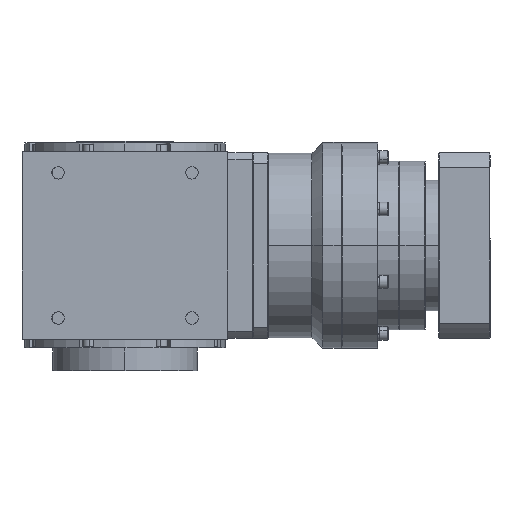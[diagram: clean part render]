
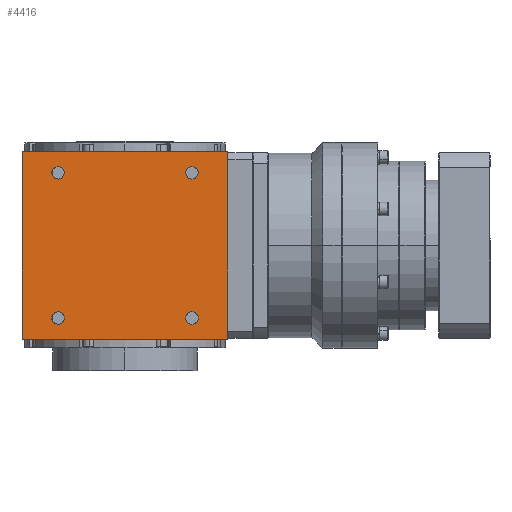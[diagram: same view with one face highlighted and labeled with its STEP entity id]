
A CAD part, left-side view. The second image highlights one B-rep face of the part: STEP entity #4416.
In plain terms, the highlighted planar face has unit normal (-1, 0, 0).
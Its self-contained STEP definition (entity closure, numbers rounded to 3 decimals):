
#7 = EDGE_LOOP ( 'NONE', ( #27596, #23486 ) ) ;
#136 = EDGE_LOOP ( 'NONE', ( #16615, #42117 ) ) ;
#536 = CARTESIAN_POINT ( 'NONE',  ( -100., -65.034, -70.5 ) ) ;
#931 = EDGE_LOOP ( 'NONE', ( #40549, #4655 ) ) ;
#1659 = FACE_BOUND ( 'NONE', #136, .T. ) ;
#1903 = DIRECTION ( 'NONE',  ( 0., 0., 1. ) ) ;
#2117 = DIRECTION ( 'NONE',  ( 1., 0., 0. ) ) ;
#3049 = CIRCLE ( 'NONE', #25621, 6. ) ;
#3497 = CIRCLE ( 'NONE', #17810, 6. ) ;
#4001 = DIRECTION ( 'NONE',  ( 0., -1., 0. ) ) ;
#4050 = DIRECTION ( 'NONE',  ( 1., 0., 0. ) ) ;
#4365 = LINE ( 'NONE', #11624, #29700 ) ;
#4416 = ADVANCED_FACE ( 'NONE', ( #1659, #21287, #36295, #23493, #37499 ), #33286, .T. ) ;
#4597 = EDGE_CURVE ( 'NONE', #28539, #4607, #19956, .T. ) ;
#4607 = VERTEX_POINT ( 'NONE', #15932 ) ;
#4655 = ORIENTED_EDGE ( 'NONE', *, *, #28865, .T. ) ;
#4694 = CARTESIAN_POINT ( 'NONE',  ( -100., -59.034, -70.5 ) ) ;
#4910 = ORIENTED_EDGE ( 'NONE', *, *, #34189, .F. ) ;
#5467 = CARTESIAN_POINT ( 'NONE',  ( -100., 64.966, 70.5 ) ) ;
#6022 = CARTESIAN_POINT ( 'NONE',  ( -100., 100., -91. ) ) ;
#6544 = CIRCLE ( 'NONE', #7885, 6. ) ;
#7319 = EDGE_CURVE ( 'NONE', #4607, #28539, #3049, .T. ) ;
#7885 = AXIS2_PLACEMENT_3D ( 'NONE', #18266, #34253, #27650 ) ;
#7987 = EDGE_LOOP ( 'NONE', ( #26884, #23819 ) ) ;
#8488 = DIRECTION ( 'NONE',  ( -1., 0., 0. ) ) ;
#8501 = DIRECTION ( 'NONE',  ( 0., -1., 0. ) ) ;
#8523 = CARTESIAN_POINT ( 'NONE',  ( -100., -100., -91. ) ) ;
#9100 = VECTOR ( 'NONE', #1903, 1000. ) ;
#9540 = CARTESIAN_POINT ( 'NONE',  ( -100., -71.034, -70.5 ) ) ;
#9983 = CARTESIAN_POINT ( 'NONE',  ( -100., -65.034, -70.5 ) ) ;
#10144 = EDGE_LOOP ( 'NONE', ( #19402, #31632, #4910, #15541 ) ) ;
#10661 = CARTESIAN_POINT ( 'NONE',  ( -100., 100., 91. ) ) ;
#11222 = VERTEX_POINT ( 'NONE', #11492 ) ;
#11320 = CIRCLE ( 'NONE', #15401, 6. ) ;
#11492 = CARTESIAN_POINT ( 'NONE',  ( -100., -100., 91. ) ) ;
#11553 = VERTEX_POINT ( 'NONE', #24194 ) ;
#11624 = CARTESIAN_POINT ( 'NONE',  ( -100., 100., -91. ) ) ;
#11820 = VECTOR ( 'NONE', #22059, 1000. ) ;
#12152 = VERTEX_POINT ( 'NONE', #10661 ) ;
#14599 = EDGE_CURVE ( 'NONE', #26183, #20567, #3497, .T. ) ;
#14657 = VECTOR ( 'NONE', #19635, 1000. ) ;
#14680 = DIRECTION ( 'NONE',  ( 1., 0., 0. ) ) ;
#15337 = LINE ( 'NONE', #8523, #9100 ) ;
#15401 = AXIS2_PLACEMENT_3D ( 'NONE', #9983, #23006, #36009 ) ;
#15541 = ORIENTED_EDGE ( 'NONE', *, *, #37010, .T. ) ;
#15932 = CARTESIAN_POINT ( 'NONE',  ( -100., 58.966, 70.5 ) ) ;
#16615 = ORIENTED_EDGE ( 'NONE', *, *, #14599, .T. ) ;
#16628 = LINE ( 'NONE', #16839, #14657 ) ;
#16839 = CARTESIAN_POINT ( 'NONE',  ( -100., 0., 91. ) ) ;
#17138 = EDGE_CURVE ( 'NONE', #12152, #11222, #16628, .T. ) ;
#17810 = AXIS2_PLACEMENT_3D ( 'NONE', #20865, #14680, #4001 ) ;
#17858 = EDGE_CURVE ( 'NONE', #17935, #38674, #6544, .T. ) ;
#17935 = VERTEX_POINT ( 'NONE', #38306 ) ;
#18266 = CARTESIAN_POINT ( 'NONE',  ( -100., 64.966, -70.5 ) ) ;
#18501 = DIRECTION ( 'NONE',  ( 1., 0., 0. ) ) ;
#18808 = AXIS2_PLACEMENT_3D ( 'NONE', #536, #39405, #28929 ) ;
#19402 = ORIENTED_EDGE ( 'NONE', *, *, #25781, .T. ) ;
#19635 = DIRECTION ( 'NONE',  ( 0., -1., 0. ) ) ;
#19956 = CIRCLE ( 'NONE', #31524, 6. ) ;
#20221 = CARTESIAN_POINT ( 'NONE',  ( -100., 70.966, 70.5 ) ) ;
#20567 = VERTEX_POINT ( 'NONE', #23205 ) ;
#20865 = CARTESIAN_POINT ( 'NONE',  ( -100., -65.034, 70.5 ) ) ;
#21287 = FACE_BOUND ( 'NONE', #7, .T. ) ;
#21401 = AXIS2_PLACEMENT_3D ( 'NONE', #34086, #33879, #8501 ) ;
#22059 = DIRECTION ( 'NONE',  ( 0., 0., 1. ) ) ;
#22858 = CARTESIAN_POINT ( 'NONE',  ( -100., 100., -91. ) ) ;
#23006 = DIRECTION ( 'NONE',  ( 1., 0., 0. ) ) ;
#23018 = CIRCLE ( 'NONE', #27754, 6. ) ;
#23205 = CARTESIAN_POINT ( 'NONE',  ( -100., -59.034, 70.5 ) ) ;
#23486 = ORIENTED_EDGE ( 'NONE', *, *, #17858, .T. ) ;
#23493 = FACE_BOUND ( 'NONE', #7987, .T. ) ;
#23704 = CARTESIAN_POINT ( 'NONE',  ( -100., 100., -91. ) ) ;
#23819 = ORIENTED_EDGE ( 'NONE', *, *, #4597, .T. ) ;
#23902 = CARTESIAN_POINT ( 'NONE',  ( -100., -65.034, 70.5 ) ) ;
#24194 = CARTESIAN_POINT ( 'NONE',  ( -100., -100., -91. ) ) ;
#24684 = AXIS2_PLACEMENT_3D ( 'NONE', #23704, #8488, #39938 ) ;
#25553 = VERTEX_POINT ( 'NONE', #22858 ) ;
#25621 = AXIS2_PLACEMENT_3D ( 'NONE', #28567, #2117, #31568 ) ;
#25781 = EDGE_CURVE ( 'NONE', #11553, #11222, #15337, .T. ) ;
#26183 = VERTEX_POINT ( 'NONE', #28081 ) ;
#26884 = ORIENTED_EDGE ( 'NONE', *, *, #7319, .T. ) ;
#27510 = CIRCLE ( 'NONE', #21401, 6. ) ;
#27596 = ORIENTED_EDGE ( 'NONE', *, *, #40115, .T. ) ;
#27650 = DIRECTION ( 'NONE',  ( 0., -1., 0. ) ) ;
#27754 = AXIS2_PLACEMENT_3D ( 'NONE', #23902, #4050, #36911 ) ;
#28081 = CARTESIAN_POINT ( 'NONE',  ( -100., -71.034, 70.5 ) ) ;
#28539 = VERTEX_POINT ( 'NONE', #20221 ) ;
#28567 = CARTESIAN_POINT ( 'NONE',  ( -100., 64.966, 70.5 ) ) ;
#28632 = CARTESIAN_POINT ( 'NONE',  ( -100., 58.966, -70.5 ) ) ;
#28865 = EDGE_CURVE ( 'NONE', #40850, #32188, #31075, .T. ) ;
#28929 = DIRECTION ( 'NONE',  ( 0., -1., 0. ) ) ;
#29700 = VECTOR ( 'NONE', #30831, 1000. ) ;
#29901 = EDGE_CURVE ( 'NONE', #20567, #26183, #23018, .T. ) ;
#30831 = DIRECTION ( 'NONE',  ( 0., -1., 0. ) ) ;
#31075 = CIRCLE ( 'NONE', #18808, 6. ) ;
#31524 = AXIS2_PLACEMENT_3D ( 'NONE', #5467, #18501, #38132 ) ;
#31568 = DIRECTION ( 'NONE',  ( 0., -1., 0. ) ) ;
#31632 = ORIENTED_EDGE ( 'NONE', *, *, #17138, .F. ) ;
#32188 = VERTEX_POINT ( 'NONE', #9540 ) ;
#33286 = PLANE ( 'NONE',  #24684 ) ;
#33879 = DIRECTION ( 'NONE',  ( 1., 0., 0. ) ) ;
#34086 = CARTESIAN_POINT ( 'NONE',  ( -100., 64.966, -70.5 ) ) ;
#34189 = EDGE_CURVE ( 'NONE', #25553, #12152, #35255, .T. ) ;
#34253 = DIRECTION ( 'NONE',  ( 1., 0., 0. ) ) ;
#35255 = LINE ( 'NONE', #6022, #11820 ) ;
#36009 = DIRECTION ( 'NONE',  ( 0., -1., 0. ) ) ;
#36295 = FACE_BOUND ( 'NONE', #931, .T. ) ;
#36911 = DIRECTION ( 'NONE',  ( 0., -1., 0. ) ) ;
#37010 = EDGE_CURVE ( 'NONE', #25553, #11553, #4365, .T. ) ;
#37499 = FACE_OUTER_BOUND ( 'NONE', #10144, .T. ) ;
#38132 = DIRECTION ( 'NONE',  ( 0., -1., 0. ) ) ;
#38306 = CARTESIAN_POINT ( 'NONE',  ( -100., 70.966, -70.5 ) ) ;
#38674 = VERTEX_POINT ( 'NONE', #28632 ) ;
#39405 = DIRECTION ( 'NONE',  ( 1., 0., 0. ) ) ;
#39938 = DIRECTION ( 'NONE',  ( 0., 0., 1. ) ) ;
#40115 = EDGE_CURVE ( 'NONE', #38674, #17935, #27510, .T. ) ;
#40549 = ORIENTED_EDGE ( 'NONE', *, *, #41545, .T. ) ;
#40850 = VERTEX_POINT ( 'NONE', #4694 ) ;
#41545 = EDGE_CURVE ( 'NONE', #32188, #40850, #11320, .T. ) ;
#42117 = ORIENTED_EDGE ( 'NONE', *, *, #29901, .T. ) ;
